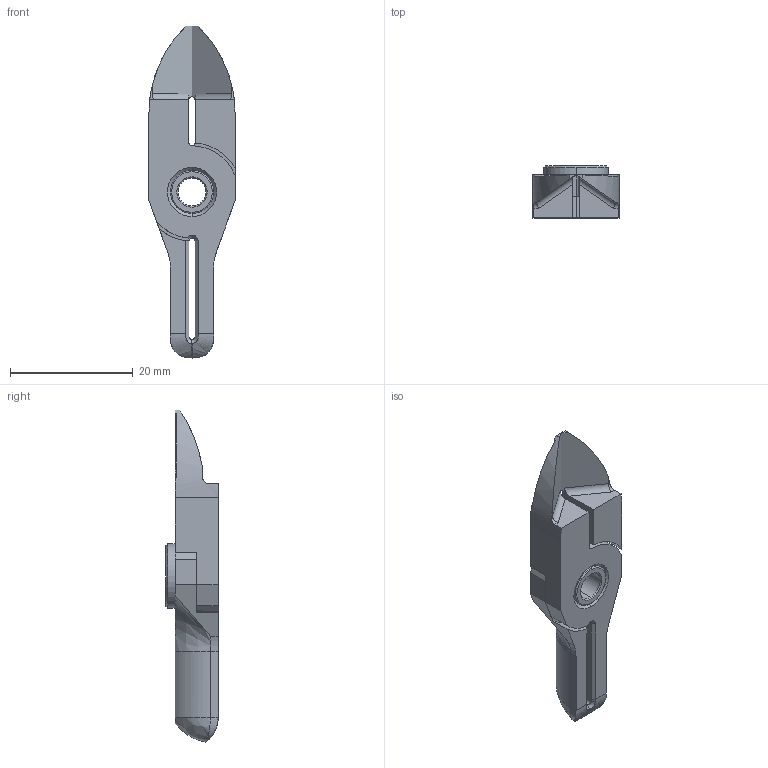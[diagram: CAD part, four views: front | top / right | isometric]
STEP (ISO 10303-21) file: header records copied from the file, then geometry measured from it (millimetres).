
FILE_DESCRIPTION (( 'STEP AP214' ), '1' );
FILE_NAME ('NY03AJL.STEP', '2019-11-28T02:35:32', ( '微软用户' ), ( '微软中国' ), 'SwSTEP 2.0', 'SolidWorks 2016', '' );
FILE_SCHEMA (( 'AUTOMOTIVE_DESIGN' ));
Length unit declared in the file: millimetre
Products named in the file (4): NY03AJL; BR2; BR1; BS
Assembly tree (3 placements, depth 2):
  NY03AJL
    BS
    BR1
    BR2
Bounding box: 14 x 8.5 x 54 mm (x, y, z)
Volume: 2744.9 mm3; surface area: 3080.3 mm2
Topology: 3 solids, 3 shells, 135 faces, 351 edges, 221 vertices
Faces by surface type: plane 45, cylinder 33, bspline 30, cone 23, torus 4
Entity records: 5024 total; most frequent: CARTESIAN_POINT 1805, ORIENTED_EDGE 690, DIRECTION 591, EDGE_CURVE 345, VERTEX_POINT 221, AXIS2_PLACEMENT_3D 211, VECTOR 169, LINE 169
